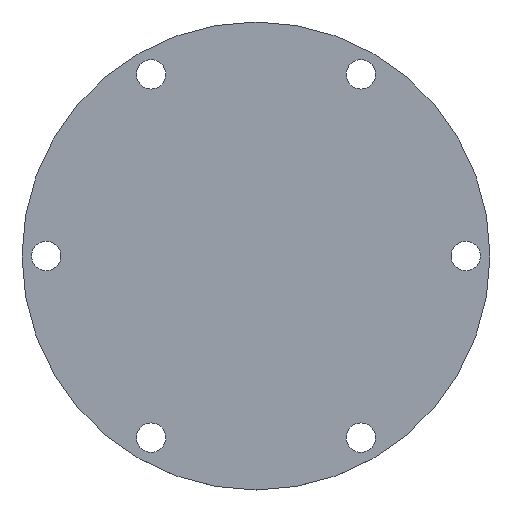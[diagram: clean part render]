
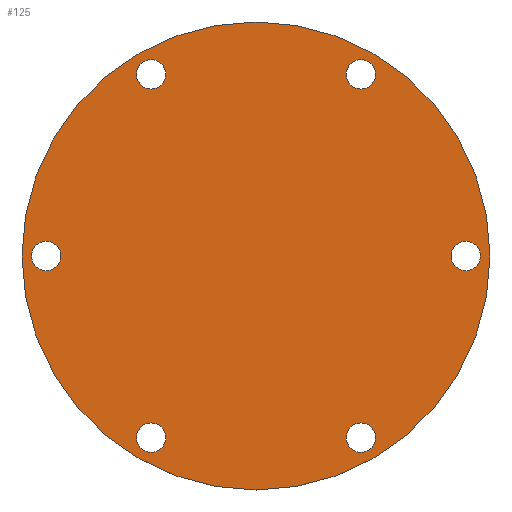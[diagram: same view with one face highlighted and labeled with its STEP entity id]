
A CAD part, top view. The second image highlights one B-rep face of the part: STEP entity #125.
In plain terms, the highlighted planar face has unit normal (0, 0, 1).
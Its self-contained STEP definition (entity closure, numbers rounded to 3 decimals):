
#24 = VERTEX_POINT('',#25);
#25 = CARTESIAN_POINT('',(135.,124.5,226.5));
#31 = EDGE_CURVE('',#24,#24,#32,.T.);
#32 = CIRCLE('',#33,25.5);
#33 = AXIS2_PLACEMENT_3D('',#34,#35,#36);
#34 = CARTESIAN_POINT('',(135.,150.,226.5));
#35 = DIRECTION('',(-0.,0.,1.));
#36 = DIRECTION('',(0.,-1.,0.));
#125 = ADVANCED_FACE('',(#126,#129,#140,#151,#162,#173,#184),#195,.T.);
#126 = FACE_BOUND('',#127,.T.);
#127 = EDGE_LOOP('',(#128));
#128 = ORIENTED_EDGE('',*,*,#31,.T.);
#129 = FACE_BOUND('',#130,.T.);
#130 = EDGE_LOOP('',(#131));
#131 = ORIENTED_EDGE('',*,*,#132,.T.);
#132 = EDGE_CURVE('',#133,#133,#135,.T.);
#133 = VERTEX_POINT('',#134);
#134 = CARTESIAN_POINT('',(122.77,171.183,226.5));
#135 = CIRCLE('',#136,1.6);
#136 = AXIS2_PLACEMENT_3D('',#137,#138,#139);
#137 = CARTESIAN_POINT('',(123.57,169.797,226.5));
#138 = DIRECTION('',(0.,0.,-1.));
#139 = DIRECTION('',(-0.5,0.866,0.));
#140 = FACE_BOUND('',#141,.T.);
#141 = EDGE_LOOP('',(#142));
#142 = ORIENTED_EDGE('',*,*,#143,.T.);
#143 = EDGE_CURVE('',#144,#144,#146,.T.);
#144 = VERTEX_POINT('',#145);
#145 = CARTESIAN_POINT('',(113.74,150.,226.5));
#146 = CIRCLE('',#147,1.6);
#147 = AXIS2_PLACEMENT_3D('',#148,#149,#150);
#148 = CARTESIAN_POINT('',(112.14,150.,226.5));
#149 = DIRECTION('',(0.,0.,-1.));
#150 = DIRECTION('',(1.,0.,0.));
#151 = FACE_BOUND('',#152,.T.);
#152 = EDGE_LOOP('',(#153));
#153 = ORIENTED_EDGE('',*,*,#154,.T.);
#154 = EDGE_CURVE('',#155,#155,#157,.T.);
#155 = VERTEX_POINT('',#156);
#156 = CARTESIAN_POINT('',(124.37,131.588,226.5));
#157 = CIRCLE('',#158,1.6);
#158 = AXIS2_PLACEMENT_3D('',#159,#160,#161);
#159 = CARTESIAN_POINT('',(123.57,130.203,226.5));
#160 = DIRECTION('',(0.,0.,-1.));
#161 = DIRECTION('',(0.5,0.866,0.));
#162 = FACE_BOUND('',#163,.T.);
#163 = EDGE_LOOP('',(#164));
#164 = ORIENTED_EDGE('',*,*,#165,.T.);
#165 = EDGE_CURVE('',#166,#166,#168,.T.);
#166 = VERTEX_POINT('',#167);
#167 = CARTESIAN_POINT('',(147.23,171.183,226.5));
#168 = CIRCLE('',#169,1.6);
#169 = AXIS2_PLACEMENT_3D('',#170,#171,#172);
#170 = CARTESIAN_POINT('',(146.43,169.797,226.5));
#171 = DIRECTION('',(0.,0.,-1.));
#172 = DIRECTION('',(0.5,0.866,0.));
#173 = FACE_BOUND('',#174,.T.);
#174 = EDGE_LOOP('',(#175));
#175 = ORIENTED_EDGE('',*,*,#176,.T.);
#176 = EDGE_CURVE('',#177,#177,#179,.T.);
#177 = VERTEX_POINT('',#178);
#178 = CARTESIAN_POINT('',(159.46,150.,226.5));
#179 = CIRCLE('',#180,1.6);
#180 = AXIS2_PLACEMENT_3D('',#181,#182,#183);
#181 = CARTESIAN_POINT('',(157.86,150.,226.5));
#182 = DIRECTION('',(0.,0.,-1.));
#183 = DIRECTION('',(1.,0.,0.));
#184 = FACE_BOUND('',#185,.T.);
#185 = EDGE_LOOP('',(#186));
#186 = ORIENTED_EDGE('',*,*,#187,.T.);
#187 = EDGE_CURVE('',#188,#188,#190,.T.);
#188 = VERTEX_POINT('',#189);
#189 = CARTESIAN_POINT('',(145.63,131.588,226.5));
#190 = CIRCLE('',#191,1.6);
#191 = AXIS2_PLACEMENT_3D('',#192,#193,#194);
#192 = CARTESIAN_POINT('',(146.43,130.203,226.5));
#193 = DIRECTION('',(0.,0.,-1.));
#194 = DIRECTION('',(-0.5,0.866,0.));
#195 = PLANE('',#196);
#196 = AXIS2_PLACEMENT_3D('',#197,#198,#199);
#197 = CARTESIAN_POINT('',(135.,150.,226.5));
#198 = DIRECTION('',(0.,0.,1.));
#199 = DIRECTION('',(0.,-1.,0.));
